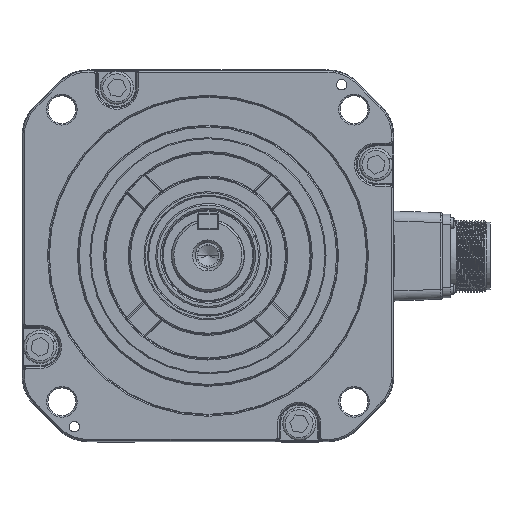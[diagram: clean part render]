
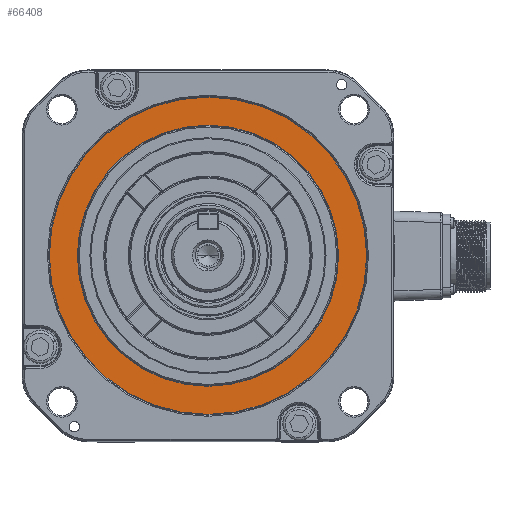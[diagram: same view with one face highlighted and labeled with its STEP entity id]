
A CAD part, top view. The second image highlights one B-rep face of the part: STEP entity #66408.
In plain terms, the highlighted planar face has unit normal (0, 0, 1).
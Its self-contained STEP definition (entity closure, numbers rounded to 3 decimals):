
#3853 = CARTESIAN_POINT ( 'NONE',  ( 0., 0., -3.7 ) ) ;
#4764 = VERTEX_POINT ( 'NONE', #16208 ) ;
#10450 = VERTEX_POINT ( 'NONE', #73435 ) ;
#10579 = CARTESIAN_POINT ( 'NONE',  ( -76.793, 0., -3.7 ) ) ;
#10830 = DIRECTION ( 'NONE',  ( -1., 0., 0. ) ) ;
#16112 = EDGE_CURVE ( 'NONE', #25075, #51955, #73118, .T. ) ;
#16208 = CARTESIAN_POINT ( 'NONE',  ( 63.207, 0., -3.7 ) ) ;
#20321 = EDGE_CURVE ( 'NONE', #51955, #25075, #78568, .T. ) ;
#21373 = CARTESIAN_POINT ( 'NONE',  ( 0., 0., -3.7 ) ) ;
#23539 = DIRECTION ( 'NONE',  ( 0., 0., 1. ) ) ;
#25075 = VERTEX_POINT ( 'NONE', #31798 ) ;
#25496 = CIRCLE ( 'NONE', #51649, 63.207 ) ;
#30210 = ORIENTED_EDGE ( 'NONE', *, *, #107626, .T. ) ;
#30360 = DIRECTION ( 'NONE',  ( -1., 0., 0. ) ) ;
#30902 = FACE_OUTER_BOUND ( 'NONE', #71764, .T. ) ;
#31798 = CARTESIAN_POINT ( 'NONE',  ( 76.793, 0., -3.7 ) ) ;
#36636 = ORIENTED_EDGE ( 'NONE', *, *, #20321, .T. ) ;
#39960 = AXIS2_PLACEMENT_3D ( 'NONE', #45167, #78470, #10830 ) ;
#45167 = CARTESIAN_POINT ( 'NONE',  ( 0., 0., -3.7 ) ) ;
#45761 = ORIENTED_EDGE ( 'NONE', *, *, #78092, .T. ) ;
#48723 = AXIS2_PLACEMENT_3D ( 'NONE', #3853, #63844, #95503 ) ;
#50815 = ORIENTED_EDGE ( 'NONE', *, *, #16112, .T. ) ;
#51649 = AXIS2_PLACEMENT_3D ( 'NONE', #57297, #57831, #64379 ) ;
#51955 = VERTEX_POINT ( 'NONE', #10579 ) ;
#56981 = EDGE_LOOP ( 'NONE', ( #30210, #45761 ) ) ;
#57297 = CARTESIAN_POINT ( 'NONE',  ( 0., 0., -3.7 ) ) ;
#57681 = AXIS2_PLACEMENT_3D ( 'NONE', #21373, #23539, #81380 ) ;
#57831 = DIRECTION ( 'NONE',  ( 0., 0., -1. ) ) ;
#63844 = DIRECTION ( 'NONE',  ( 0., 0., -1. ) ) ;
#64379 = DIRECTION ( 'NONE',  ( -1., 0., 0. ) ) ;
#66408 = ADVANCED_FACE ( 'NONE', ( #30902, #105067 ), #72407, .F. ) ;
#71764 = EDGE_LOOP ( 'NONE', ( #36636, #50815 ) ) ;
#72407 = PLANE ( 'NONE',  #73989 ) ;
#73118 = CIRCLE ( 'NONE', #39960, 76.793 ) ;
#73435 = CARTESIAN_POINT ( 'NONE',  ( -63.207, 0., -3.7 ) ) ;
#73989 = AXIS2_PLACEMENT_3D ( 'NONE', #96917, #79507, #30360 ) ;
#78092 = EDGE_CURVE ( 'NONE', #4764, #10450, #78405, .T. ) ;
#78405 = CIRCLE ( 'NONE', #48723, 63.207 ) ;
#78470 = DIRECTION ( 'NONE',  ( 0., 0., 1. ) ) ;
#78568 = CIRCLE ( 'NONE', #57681, 76.793 ) ;
#79507 = DIRECTION ( 'NONE',  ( 0., 0., -1. ) ) ;
#81380 = DIRECTION ( 'NONE',  ( -1., 0., 0. ) ) ;
#95503 = DIRECTION ( 'NONE',  ( -1., 0., 0. ) ) ;
#96917 = CARTESIAN_POINT ( 'NONE',  ( 0., 77., -3.7 ) ) ;
#105067 = FACE_BOUND ( 'NONE', #56981, .T. ) ;
#107626 = EDGE_CURVE ( 'NONE', #10450, #4764, #25496, .T. ) ;
